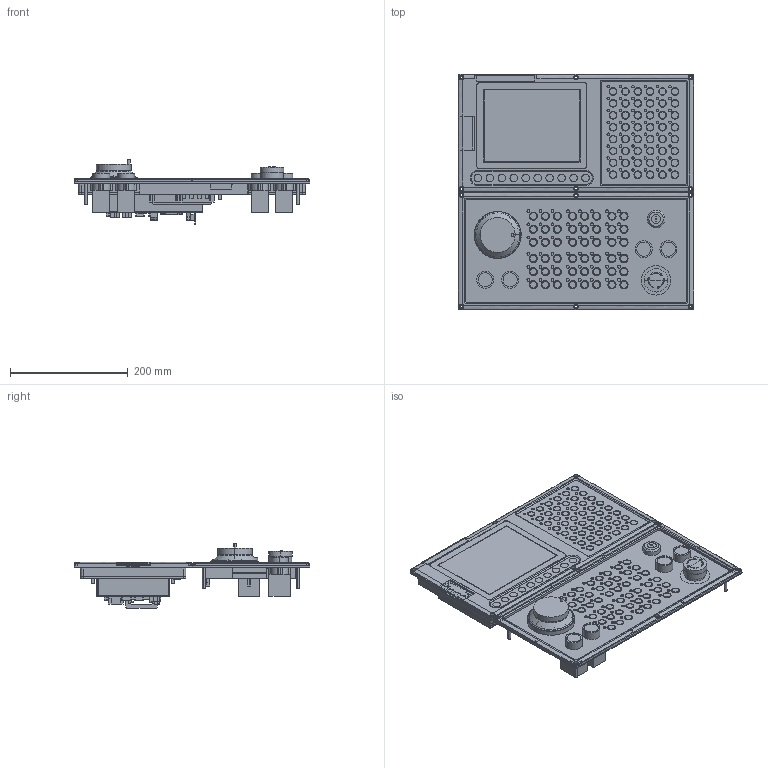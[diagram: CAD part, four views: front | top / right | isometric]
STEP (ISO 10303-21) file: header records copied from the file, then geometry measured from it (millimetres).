
FILE_DESCRIPTION (( 'STEP AP214' ), '1' );
FILE_NAME ('B-8车床横式+辅助板开窗尺寸.STEP', '2022-12-28T05:07:49', ( 'admin' ), ( '' ), 'SwSTEP 2.0', 'SolidWorks 2018', '' );
FILE_SCHEMA (( 'AUTOMOTIVE_DESIGN' ));
Products named in the file (1): B-8车床横式+辅助板开窗尺寸
Bounding box: 400 x 400 x 109.6 mm (x, y, z)
Volume: 3482057.2 mm3; surface area: 697417.1 mm2
Topology: 2 solids, 114 shells, 4060 faces, 9851 edges, 6563 vertices
Faces by surface type: plane 2273, cylinder 1376, bspline 220, cone 174, sphere 9, torus 8
Entity records: 136184 total; most frequent: CARTESIAN_POINT 40651, ORIENTED_EDGE 19692, DIRECTION 19396, EDGE_CURVE 9846, AXIS2_PLACEMENT_3D 6914, VERTEX_POINT 6563, VECTOR 5568, LINE 5568
